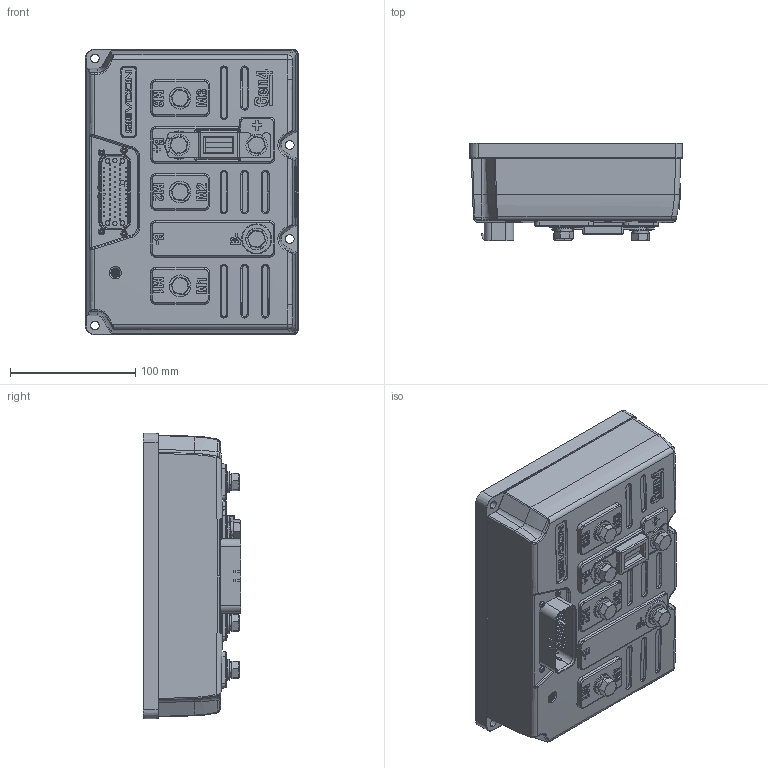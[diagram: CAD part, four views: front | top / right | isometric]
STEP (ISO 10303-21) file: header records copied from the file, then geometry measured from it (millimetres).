
FILE_DESCRIPTION (( 'STEP AP203' ), '1' );
FILE_NAME ('Gen4 SIZE 4 CUSTOMER MODEL.STEP', '2009-03-19T14:19:28', ( ' ' ), ( ' ' ), 'SwSTEP 2.0', 'SolidWorks 2009', '' );
FILE_SCHEMA (( 'CONFIG_CONTROL_DESIGN' ));
Products named in the file (1): Gen4 SIZE 4 CUSTOMER MODEL
Bounding box: 170.03 x 77.65 x 228.03 mm (x, y, z)
Surface area: 144915.9 mm2 (no closed solid volume)
Topology: 0 solids, 84 shells, 1582 faces, 6113 edges, 4556 vertices
Faces by surface type: plane 792, bspline 308, cylinder 292, cone 112, torus 64, sphere 14
Entity records: 82515 total; most frequent: CARTESIAN_POINT 35278, ORIENTED_EDGE 9460, DIRECTION 8351, EDGE_CURVE 6107, VERTEX_POINT 4556, LINE 3601, VECTOR 3601, AXIS2_PLACEMENT_3D 2375
